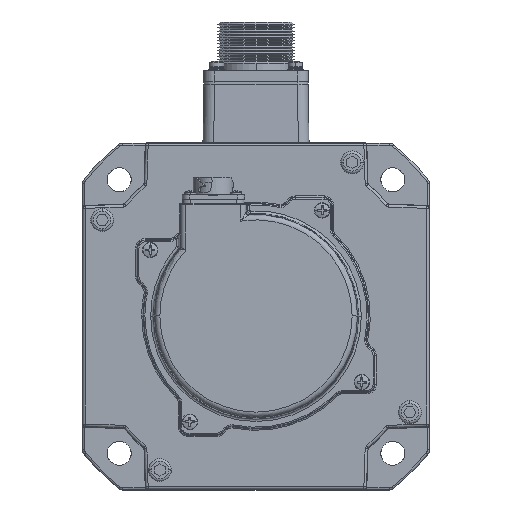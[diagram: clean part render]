
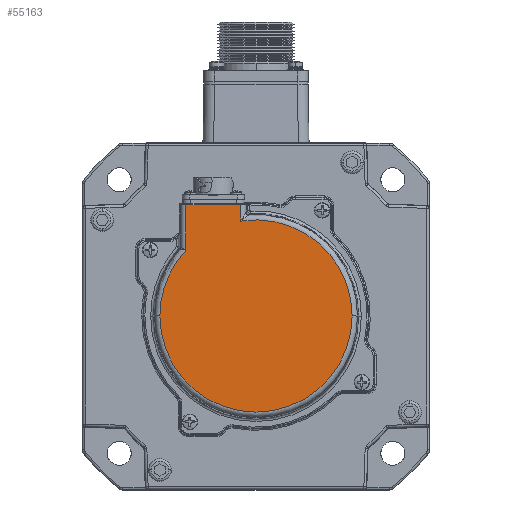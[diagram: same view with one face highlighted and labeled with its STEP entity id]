
A CAD part, top view. The second image highlights one B-rep face of the part: STEP entity #55163.
In plain terms, the highlighted planar face has unit normal (0, 0, 1).
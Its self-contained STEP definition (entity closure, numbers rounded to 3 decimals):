
#8431 = AXIS2_PLACEMENT_3D ( 'NONE', #36746, #103564, #46324 ) ;
#10223 = VERTEX_POINT ( 'NONE', #44483 ) ;
#10575 = DIRECTION ( 'NONE',  ( 0., 1., 0. ) ) ;
#11373 = AXIS2_PLACEMENT_3D ( 'NONE', #71570, #14327, #81229 ) ;
#14327 = DIRECTION ( 'NONE',  ( 0., 0., 1. ) ) ;
#15549 = FACE_OUTER_BOUND ( 'NONE', #70167, .T. ) ;
#19379 = VERTEX_POINT ( 'NONE', #66314 ) ;
#22073 = EDGE_CURVE ( 'NONE', #19379, #45564, #89668, .T. ) ;
#24662 = EDGE_CURVE ( 'NONE', #103103, #10223, #72387, .T. ) ;
#25092 = AXIS2_PLACEMENT_3D ( 'NONE', #32572, #99453, #42157 ) ;
#30303 = VERTEX_POINT ( 'NONE', #104561 ) ;
#31955 = EDGE_CURVE ( 'NONE', #100571, #103103, #102529, .T. ) ;
#32572 = CARTESIAN_POINT ( 'NONE',  ( -8.872, -56.273, -30.037 ) ) ;
#36746 = CARTESIAN_POINT ( 'NONE',  ( -8.872, -56.273, -30.037 ) ) ;
#41805 = ORIENTED_EDGE ( 'NONE', *, *, #24662, .T. ) ;
#42157 = DIRECTION ( 'NONE',  ( -1., 0., 0. ) ) ;
#42326 = CARTESIAN_POINT ( 'NONE',  ( -8.872, -14.523, -30.037 ) ) ;
#44477 = LINE ( 'NONE', #106296, #95395 ) ;
#44483 = CARTESIAN_POINT ( 'NONE',  ( -14.587, -20.695, -30.037 ) ) ;
#45564 = VERTEX_POINT ( 'NONE', #80067 ) ;
#45755 = CARTESIAN_POINT ( 'NONE',  ( -44.907, -56.273, -30.037 ) ) ;
#46324 = DIRECTION ( 'NONE',  ( -1., 0., 0. ) ) ;
#50333 = CARTESIAN_POINT ( 'NONE',  ( -8.872, -56.273, -30.037 ) ) ;
#50370 = AXIS2_PLACEMENT_3D ( 'NONE', #50333, #117229, #59949 ) ;
#52041 = DIRECTION ( 'NONE',  ( 0., -1., 0. ) ) ;
#52364 = EDGE_CURVE ( 'NONE', #45564, #100571, #120647, .T. ) ;
#55163 = ADVANCED_FACE ( 'NONE', ( #15549 ), #119292, .T. ) ;
#58863 = ORIENTED_EDGE ( 'NONE', *, *, #116037, .T. ) ;
#59949 = DIRECTION ( 'NONE',  ( -1., 0., 0. ) ) ;
#60842 = CARTESIAN_POINT ( 'NONE',  ( -35.157, -56.273, -30.037 ) ) ;
#64231 = VECTOR ( 'NONE', #52041, 1000. ) ;
#66154 = ORIENTED_EDGE ( 'NONE', *, *, #52364, .T. ) ;
#66314 = CARTESIAN_POINT ( 'NONE',  ( -35.157, -14.523, -30.037 ) ) ;
#70167 = EDGE_LOOP ( 'NONE', ( #95779, #58863, #87565, #66154, #100818, #41805 ) ) ;
#71570 = CARTESIAN_POINT ( 'NONE',  ( -8.872, -56.273, -30.037 ) ) ;
#72387 = CIRCLE ( 'NONE', #8431, 36.035 ) ;
#73793 = CARTESIAN_POINT ( 'NONE',  ( 27.163, -56.273, -30.037 ) ) ;
#80067 = CARTESIAN_POINT ( 'NONE',  ( -35.157, -31.624, -30.037 ) ) ;
#81229 = DIRECTION ( 'NONE',  ( -1., 0., 0. ) ) ;
#87439 = EDGE_CURVE ( 'NONE', #10223, #30303, #44477, .T. ) ;
#87565 = ORIENTED_EDGE ( 'NONE', *, *, #22073, .T. ) ;
#89668 = LINE ( 'NONE', #60842, #64231 ) ;
#93951 = VECTOR ( 'NONE', #108448, 1000. ) ;
#95395 = VECTOR ( 'NONE', #10575, 1000. ) ;
#95779 = ORIENTED_EDGE ( 'NONE', *, *, #87439, .T. ) ;
#96905 = LINE ( 'NONE', #42326, #93951 ) ;
#99453 = DIRECTION ( 'NONE',  ( 0., 0., 1. ) ) ;
#100571 = VERTEX_POINT ( 'NONE', #45755 ) ;
#100818 = ORIENTED_EDGE ( 'NONE', *, *, #31955, .T. ) ;
#102529 = CIRCLE ( 'NONE', #25092, 36.035 ) ;
#103103 = VERTEX_POINT ( 'NONE', #73793 ) ;
#103564 = DIRECTION ( 'NONE',  ( 0., 0., 1. ) ) ;
#104561 = CARTESIAN_POINT ( 'NONE',  ( -14.587, -14.523, -30.037 ) ) ;
#106296 = CARTESIAN_POINT ( 'NONE',  ( -14.587, -56.273, -30.037 ) ) ;
#108448 = DIRECTION ( 'NONE',  ( -1., 0., 0. ) ) ;
#116037 = EDGE_CURVE ( 'NONE', #30303, #19379, #96905, .T. ) ;
#117229 = DIRECTION ( 'NONE',  ( 0., 0., 1. ) ) ;
#119292 = PLANE ( 'NONE',  #11373 ) ;
#120647 = CIRCLE ( 'NONE', #50370, 36.035 ) ;
